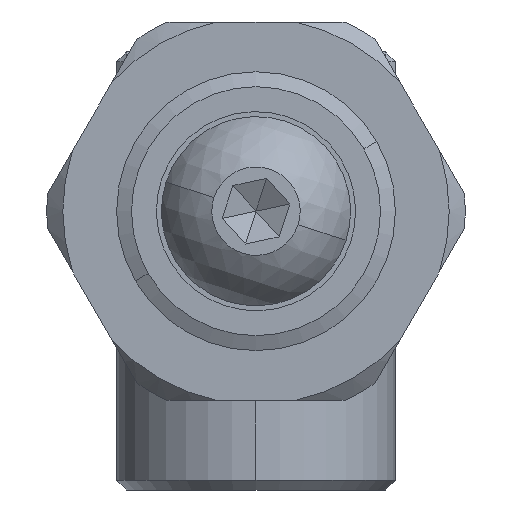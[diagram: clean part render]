
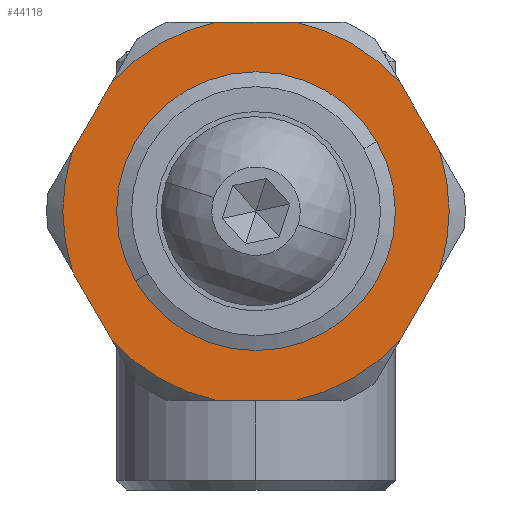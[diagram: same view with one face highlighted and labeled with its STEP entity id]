
A CAD part, front view. The second image highlights one B-rep face of the part: STEP entity #44118.
In plain terms, the highlighted planar face has unit normal (0, -1, 0).
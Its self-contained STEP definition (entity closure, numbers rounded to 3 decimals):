
#135 = LINE ( 'NONE', #700, #43358 ) ;
#206 = ORIENTED_EDGE ( 'NONE', *, *, #30979, .T. ) ;
#317 = CIRCLE ( 'NONE', #30450, 9.7 ) ;
#700 = CARTESIAN_POINT ( 'NONE',  ( -1.227, -117.199, 18.75 ) ) ;
#837 = CARTESIAN_POINT ( 'NONE',  ( -0.247, -117.199, 20.447 ) ) ;
#897 = DIRECTION ( 'NONE',  ( 0., 1., 0. ) ) ;
#915 = VERTEX_POINT ( 'NONE', #36805 ) ;
#965 = VECTOR ( 'NONE', #45315, 1000. ) ;
#1650 = LINE ( 'NONE', #17712, #34680 ) ;
#1840 = DIRECTION ( 'NONE',  ( 0., 0., 1. ) ) ;
#2166 = CARTESIAN_POINT ( 'NONE',  ( 8.96, -117.199, 23.5 ) ) ;
#2178 = EDGE_CURVE ( 'NONE', #41480, #17597, #51751, .T. ) ;
#3333 = CIRCLE ( 'NONE', #31306, 9.7 ) ;
#3576 = DIRECTION ( 'NONE',  ( -0.5, 0., 0.866 ) ) ;
#4073 = VERTEX_POINT ( 'NONE', #22638 ) ;
#5312 = ORIENTED_EDGE ( 'NONE', *, *, #50993, .T. ) ;
#5730 = ORIENTED_EDGE ( 'NONE', *, *, #2178, .T. ) ;
#7361 = CARTESIAN_POINT ( 'NONE',  ( 7., -117.199, 14. ) ) ;
#7487 = VERTEX_POINT ( 'NONE', #13069 ) ;
#7595 = ORIENTED_EDGE ( 'NONE', *, *, #35351, .T. ) ;
#7705 = CIRCLE ( 'NONE', #42934, 9.7 ) ;
#8206 = EDGE_LOOP ( 'NONE', ( #22900, #5312 ) ) ;
#9299 = CARTESIAN_POINT ( 'NONE',  ( 7., -117.199, 14. ) ) ;
#10426 = DIRECTION ( 'NONE',  ( 0., -1., 0. ) ) ;
#10963 = VERTEX_POINT ( 'NONE', #47589 ) ;
#11013 = EDGE_CURVE ( 'NONE', #41432, #40547, #19891, .T. ) ;
#11162 = ORIENTED_EDGE ( 'NONE', *, *, #21713, .T. ) ;
#11672 = DIRECTION ( 'NONE',  ( 0., 0., 1. ) ) ;
#11994 = CARTESIAN_POINT ( 'NONE',  ( 7., -117.199, 14. ) ) ;
#12404 = CARTESIAN_POINT ( 'NONE',  ( 16.207, -117.199, 17.053 ) ) ;
#13041 = CIRCLE ( 'NONE', #22772, 6.25 ) ;
#13069 = CARTESIAN_POINT ( 'NONE',  ( 5.04, -117.199, 23.5 ) ) ;
#13588 = DIRECTION ( 'NONE',  ( 0., 0., 1. ) ) ;
#14697 = CARTESIAN_POINT ( 'NONE',  ( 7., -117.199, 4.5 ) ) ;
#14932 = VERTEX_POINT ( 'NONE', #28004 ) ;
#15122 = CARTESIAN_POINT ( 'NONE',  ( -1.227, -117.199, 9.25 ) ) ;
#16361 = DIRECTION ( 'NONE',  ( 0., 0., 1. ) ) ;
#17597 = VERTEX_POINT ( 'NONE', #26001 ) ;
#17712 = CARTESIAN_POINT ( 'NONE',  ( 7., -117.199, 23.5 ) ) ;
#17900 = DIRECTION ( 'NONE',  ( -1., 0., 0. ) ) ;
#18096 = VERTEX_POINT ( 'NONE', #43561 ) ;
#18497 = DIRECTION ( 'NONE',  ( 0., 1., 0. ) ) ;
#18603 = AXIS2_PLACEMENT_3D ( 'NONE', #53515, #27639, #1840 ) ;
#19421 = CARTESIAN_POINT ( 'NONE',  ( -2.207, -117.199, 10.947 ) ) ;
#19471 = EDGE_CURVE ( 'NONE', #32559, #41480, #7705, .T. ) ;
#19891 = CIRCLE ( 'NONE', #36398, 9.7 ) ;
#20259 = VECTOR ( 'NONE', #3576, 1000. ) ;
#20947 = ORIENTED_EDGE ( 'NONE', *, *, #49775, .T. ) ;
#21713 = EDGE_CURVE ( 'NONE', #26373, #14932, #135, .T. ) ;
#21869 = ORIENTED_EDGE ( 'NONE', *, *, #36637, .T. ) ;
#22187 = ORIENTED_EDGE ( 'NONE', *, *, #19471, .T. ) ;
#22374 = EDGE_LOOP ( 'NONE', ( #5730, #45560, #53898, #29013, #20947, #7595, #11162, #52479, #21869, #48743, #206, #22187 ) ) ;
#22638 = CARTESIAN_POINT ( 'NONE',  ( -0.247, -117.199, 7.553 ) ) ;
#22772 = AXIS2_PLACEMENT_3D ( 'NONE', #26701, #897, #31060 ) ;
#22900 = ORIENTED_EDGE ( 'NONE', *, *, #43471, .T. ) ;
#23151 = DIRECTION ( 'NONE',  ( 0.5, 0., 0.866 ) ) ;
#23341 = CARTESIAN_POINT ( 'NONE',  ( 15.227, -117.199, 9.25 ) ) ;
#23769 = CARTESIAN_POINT ( 'NONE',  ( 7., -117.199, 14. ) ) ;
#24407 = CARTESIAN_POINT ( 'NONE',  ( 7., -117.199, 14. ) ) ;
#25433 = AXIS2_PLACEMENT_3D ( 'NONE', #11994, #42229, #16361 ) ;
#26001 = CARTESIAN_POINT ( 'NONE',  ( 16.207, -117.199, 10.947 ) ) ;
#26373 = VERTEX_POINT ( 'NONE', #837 ) ;
#26701 = CARTESIAN_POINT ( 'NONE',  ( 7., -117.199, 14. ) ) ;
#27026 = PLANE ( 'NONE',  #28961 ) ;
#27639 = DIRECTION ( 'NONE',  ( 0., -1., 0. ) ) ;
#27995 = EDGE_CURVE ( 'NONE', #4073, #10963, #53055, .T. ) ;
#28004 = CARTESIAN_POINT ( 'NONE',  ( -2.207, -117.199, 17.053 ) ) ;
#28145 = DIRECTION ( 'NONE',  ( 0., 0., 1. ) ) ;
#28768 = DIRECTION ( 'NONE',  ( 0., 0., 1. ) ) ;
#28961 = AXIS2_PLACEMENT_3D ( 'NONE', #44420, #18497, #48758 ) ;
#29013 = ORIENTED_EDGE ( 'NONE', *, *, #11013, .T. ) ;
#29574 = VECTOR ( 'NONE', #44935, 1000. ) ;
#30450 = AXIS2_PLACEMENT_3D ( 'NONE', #7361, #37557, #11672 ) ;
#30855 = DIRECTION ( 'NONE',  ( -0.5, 0., -0.866 ) ) ;
#30979 = EDGE_CURVE ( 'NONE', #10963, #32559, #52535, .T. ) ;
#31060 = DIRECTION ( 'NONE',  ( 0., 0., 1. ) ) ;
#31306 = AXIS2_PLACEMENT_3D ( 'NONE', #36248, #10426, #40576 ) ;
#32559 = VERTEX_POINT ( 'NONE', #33678 ) ;
#33678 = CARTESIAN_POINT ( 'NONE',  ( 8.96, -117.199, 4.5 ) ) ;
#34233 = FACE_BOUND ( 'NONE', #8206, .T. ) ;
#34680 = VECTOR ( 'NONE', #17900, 1000. ) ;
#35351 = EDGE_CURVE ( 'NONE', #7487, #26373, #3333, .T. ) ;
#35991 = CARTESIAN_POINT ( 'NONE',  ( 14.247, -117.199, 20.447 ) ) ;
#36248 = CARTESIAN_POINT ( 'NONE',  ( 7., -117.199, 14. ) ) ;
#36398 = AXIS2_PLACEMENT_3D ( 'NONE', #9299, #39478, #13588 ) ;
#36632 = VERTEX_POINT ( 'NONE', #19421 ) ;
#36637 = EDGE_CURVE ( 'NONE', #36632, #4073, #46836, .T. ) ;
#36805 = CARTESIAN_POINT ( 'NONE',  ( 7., -117.199, 20.25 ) ) ;
#37557 = DIRECTION ( 'NONE',  ( 0., -1., 0. ) ) ;
#38530 = CIRCLE ( 'NONE', #18603, 9.7 ) ;
#38858 = EDGE_CURVE ( 'NONE', #54762, #41432, #44668, .T. ) ;
#39478 = DIRECTION ( 'NONE',  ( 0., -1., 0. ) ) ;
#40547 = VERTEX_POINT ( 'NONE', #2166 ) ;
#40576 = DIRECTION ( 'NONE',  ( 0., 0., 1. ) ) ;
#41432 = VERTEX_POINT ( 'NONE', #35991 ) ;
#41480 = VERTEX_POINT ( 'NONE', #45076 ) ;
#42222 = CARTESIAN_POINT ( 'NONE',  ( 15.227, -117.199, 18.75 ) ) ;
#42229 = DIRECTION ( 'NONE',  ( 0., -1., 0. ) ) ;
#42934 = AXIS2_PLACEMENT_3D ( 'NONE', #24407, #54659, #28768 ) ;
#43358 = VECTOR ( 'NONE', #30855, 1000. ) ;
#43471 = EDGE_CURVE ( 'NONE', #915, #18096, #13041, .T. ) ;
#43561 = CARTESIAN_POINT ( 'NONE',  ( 7., -117.199, 7.75 ) ) ;
#44118 = ADVANCED_FACE ( 'NONE', ( #34233, #45724 ), #27026, .F. ) ;
#44420 = CARTESIAN_POINT ( 'NONE',  ( 7., -117.199, 14. ) ) ;
#44668 = LINE ( 'NONE', #42222, #20259 ) ;
#44935 = DIRECTION ( 'NONE',  ( 1., 0., 0. ) ) ;
#45076 = CARTESIAN_POINT ( 'NONE',  ( 14.247, -117.199, 7.553 ) ) ;
#45225 = CIRCLE ( 'NONE', #49911, 6.25 ) ;
#45315 = DIRECTION ( 'NONE',  ( 0.5, 0., -0.866 ) ) ;
#45560 = ORIENTED_EDGE ( 'NONE', *, *, #49609, .T. ) ;
#45724 = FACE_OUTER_BOUND ( 'NONE', #22374, .T. ) ;
#46836 = LINE ( 'NONE', #15122, #965 ) ;
#47589 = CARTESIAN_POINT ( 'NONE',  ( 5.04, -117.199, 4.5 ) ) ;
#48743 = ORIENTED_EDGE ( 'NONE', *, *, #27995, .T. ) ;
#48758 = DIRECTION ( 'NONE',  ( 0., 0., 1. ) ) ;
#49609 = EDGE_CURVE ( 'NONE', #17597, #54762, #317, .T. ) ;
#49775 = EDGE_CURVE ( 'NONE', #40547, #7487, #1650, .T. ) ;
#49911 = AXIS2_PLACEMENT_3D ( 'NONE', #23769, #54029, #28145 ) ;
#50427 = VECTOR ( 'NONE', #23151, 1000. ) ;
#50993 = EDGE_CURVE ( 'NONE', #18096, #915, #45225, .T. ) ;
#51751 = LINE ( 'NONE', #23341, #50427 ) ;
#52479 = ORIENTED_EDGE ( 'NONE', *, *, #53922, .T. ) ;
#52535 = LINE ( 'NONE', #14697, #29574 ) ;
#53055 = CIRCLE ( 'NONE', #25433, 9.7 ) ;
#53515 = CARTESIAN_POINT ( 'NONE',  ( 7., -117.199, 14. ) ) ;
#53898 = ORIENTED_EDGE ( 'NONE', *, *, #38858, .T. ) ;
#53922 = EDGE_CURVE ( 'NONE', #14932, #36632, #38530, .T. ) ;
#54029 = DIRECTION ( 'NONE',  ( 0., 1., 0. ) ) ;
#54659 = DIRECTION ( 'NONE',  ( 0., -1., 0. ) ) ;
#54762 = VERTEX_POINT ( 'NONE', #12404 ) ;
